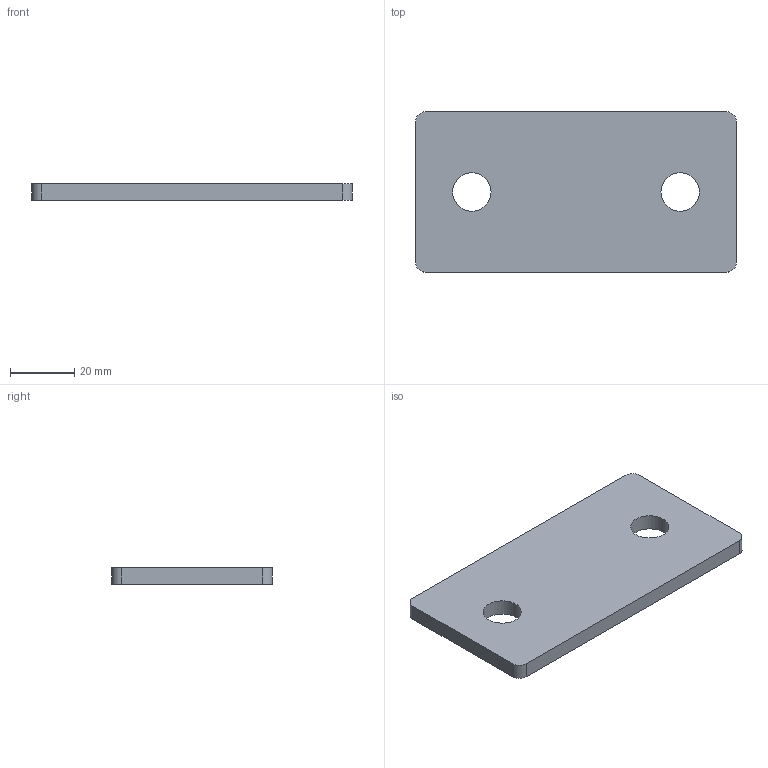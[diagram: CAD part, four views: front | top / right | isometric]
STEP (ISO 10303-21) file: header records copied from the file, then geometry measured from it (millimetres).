
FILE_DESCRIPTION(/* description */ (''),/* implementation_level */ '2;1');
FILE_NAME(/* name */ 'Pos109-Plaatwerk D= 5-S235JRG2-10st',/* time_stamp */ '2024-08-06T13:49:48+02:00',/* author */ (''),/* organization */ (''),/* preprocessor_version */ 'ST-DEVELOPER v16.5',/* originating_system */ 'HiCAD 2024 2901.2 Build 361',/* authorisation */ '');
FILE_SCHEMA (('AUTOMOTIVE_DESIGN { 1 0 10303 214 1 1 1 1 }'));
Length unit declared in the file: millimetre
Products named in the file (1): Pos109-Plaatwerk D= 5-S235JRG2-10st
Bounding box: 100 x 50 x 5 mm (x, y, z)
Volume: 23830.4 mm3; surface area: 11383.4 mm2
Topology: 1 solids, 1 shells, 12 faces, 32 edges, 22 vertices
Faces by surface type: cylinder 6, plane 6
Full cylindrical faces by diameter (mm): 12 x2
Entity records: 662 total; most frequent: DIRECTION 64, CARTESIAN_POINT 60, PRESENTATION_STYLE_ASSIGNMENT 57, COLOUR_RGB 57, DRAUGHTING_PRE_DEFINED_CURVE_FONT 56, CURVE_STYLE 56, OVER_RIDING_STYLED_ITEM 56, ORIENTED_EDGE 56
